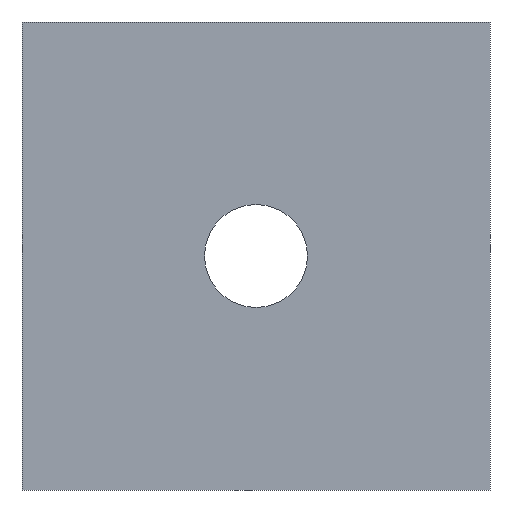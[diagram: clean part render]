
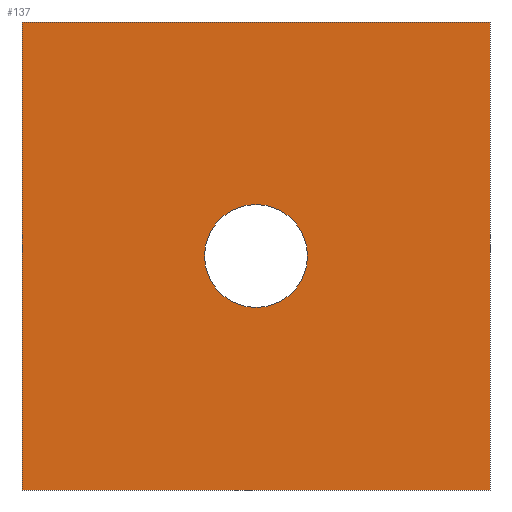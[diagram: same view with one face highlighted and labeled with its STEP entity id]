
A CAD part, front view. The second image highlights one B-rep face of the part: STEP entity #137.
In plain terms, the highlighted planar face has unit normal (0, -1, 0).
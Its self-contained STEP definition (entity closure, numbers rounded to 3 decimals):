
#21 = EDGE_CURVE('',#22,#24,#26,.T.);
#22 = VERTEX_POINT('',#23);
#23 = CARTESIAN_POINT('',(-15.,112.,285.));
#24 = VERTEX_POINT('',#25);
#25 = CARTESIAN_POINT('',(-15.,112.,315.));
#26 = SURFACE_CURVE('',#27,(#31,#43),.PCURVE_S1.);
#27 = LINE('',#28,#29);
#28 = CARTESIAN_POINT('',(-15.,112.,285.));
#29 = VECTOR('',#30,1.);
#30 = DIRECTION('',(0.,0.,1.));
#31 = PCURVE('',#32,#37);
#32 = PLANE('',#33);
#33 = AXIS2_PLACEMENT_3D('',#34,#35,#36);
#34 = CARTESIAN_POINT('',(-15.,112.,285.));
#35 = DIRECTION('',(1.,0.,0.));
#36 = DIRECTION('',(0.,0.,1.));
#37 = DEFINITIONAL_REPRESENTATION('',(#38),#42);
#38 = LINE('',#39,#40);
#39 = CARTESIAN_POINT('',(0.,0.));
#40 = VECTOR('',#41,1.);
#41 = DIRECTION('',(1.,0.));
#42 = ( GEOMETRIC_REPRESENTATION_CONTEXT(2) 
PARAMETRIC_REPRESENTATION_CONTEXT() REPRESENTATION_CONTEXT('2D SPACE',''
  ) );
#43 = PCURVE('',#44,#49);
#44 = PLANE('',#45);
#45 = AXIS2_PLACEMENT_3D('',#46,#47,#48);
#46 = CARTESIAN_POINT('',(-15.,112.,285.));
#47 = DIRECTION('',(0.,1.,0.));
#48 = DIRECTION('',(0.,0.,1.));
#49 = DEFINITIONAL_REPRESENTATION('',(#50),#54);
#50 = LINE('',#51,#52);
#51 = CARTESIAN_POINT('',(0.,0.));
#52 = VECTOR('',#53,1.);
#53 = DIRECTION('',(1.,0.));
#54 = ( GEOMETRIC_REPRESENTATION_CONTEXT(2) 
PARAMETRIC_REPRESENTATION_CONTEXT() REPRESENTATION_CONTEXT('2D SPACE',''
  ) );
#72 = PLANE('',#73);
#73 = AXIS2_PLACEMENT_3D('',#74,#75,#76);
#74 = CARTESIAN_POINT('',(-15.,112.,285.));
#75 = DIRECTION('',(0.,0.,1.));
#76 = DIRECTION('',(1.,0.,0.));
#126 = PLANE('',#127);
#127 = AXIS2_PLACEMENT_3D('',#128,#129,#130);
#128 = CARTESIAN_POINT('',(-15.,112.,315.));
#129 = DIRECTION('',(0.,0.,1.));
#130 = DIRECTION('',(1.,0.,0.));
#137 = ADVANCED_FACE('',(#138,#213),#44,.F.);
#138 = FACE_BOUND('',#139,.F.);
#139 = EDGE_LOOP('',(#140,#163,#164,#187));
#140 = ORIENTED_EDGE('',*,*,#141,.F.);
#141 = EDGE_CURVE('',#22,#142,#144,.T.);
#142 = VERTEX_POINT('',#143);
#143 = CARTESIAN_POINT('',(15.,112.,285.));
#144 = SURFACE_CURVE('',#145,(#149,#156),.PCURVE_S1.);
#145 = LINE('',#146,#147);
#146 = CARTESIAN_POINT('',(-15.,112.,285.));
#147 = VECTOR('',#148,1.);
#148 = DIRECTION('',(1.,0.,0.));
#149 = PCURVE('',#44,#150);
#150 = DEFINITIONAL_REPRESENTATION('',(#151),#155);
#151 = LINE('',#152,#153);
#152 = CARTESIAN_POINT('',(0.,0.));
#153 = VECTOR('',#154,1.);
#154 = DIRECTION('',(0.,1.));
#155 = ( GEOMETRIC_REPRESENTATION_CONTEXT(2) 
PARAMETRIC_REPRESENTATION_CONTEXT() REPRESENTATION_CONTEXT('2D SPACE',''
  ) );
#156 = PCURVE('',#72,#157);
#157 = DEFINITIONAL_REPRESENTATION('',(#158),#162);
#158 = LINE('',#159,#160);
#159 = CARTESIAN_POINT('',(0.,0.));
#160 = VECTOR('',#161,1.);
#161 = DIRECTION('',(1.,0.));
#162 = ( GEOMETRIC_REPRESENTATION_CONTEXT(2) 
PARAMETRIC_REPRESENTATION_CONTEXT() REPRESENTATION_CONTEXT('2D SPACE',''
  ) );
#163 = ORIENTED_EDGE('',*,*,#21,.T.);
#164 = ORIENTED_EDGE('',*,*,#165,.T.);
#165 = EDGE_CURVE('',#24,#166,#168,.T.);
#166 = VERTEX_POINT('',#167);
#167 = CARTESIAN_POINT('',(15.,112.,315.));
#168 = SURFACE_CURVE('',#169,(#173,#180),.PCURVE_S1.);
#169 = LINE('',#170,#171);
#170 = CARTESIAN_POINT('',(-15.,112.,315.));
#171 = VECTOR('',#172,1.);
#172 = DIRECTION('',(1.,0.,0.));
#173 = PCURVE('',#44,#174);
#174 = DEFINITIONAL_REPRESENTATION('',(#175),#179);
#175 = LINE('',#176,#177);
#176 = CARTESIAN_POINT('',(30.,0.));
#177 = VECTOR('',#178,1.);
#178 = DIRECTION('',(0.,1.));
#179 = ( GEOMETRIC_REPRESENTATION_CONTEXT(2) 
PARAMETRIC_REPRESENTATION_CONTEXT() REPRESENTATION_CONTEXT('2D SPACE',''
  ) );
#180 = PCURVE('',#126,#181);
#181 = DEFINITIONAL_REPRESENTATION('',(#182),#186);
#182 = LINE('',#183,#184);
#183 = CARTESIAN_POINT('',(0.,0.));
#184 = VECTOR('',#185,1.);
#185 = DIRECTION('',(1.,0.));
#186 = ( GEOMETRIC_REPRESENTATION_CONTEXT(2) 
PARAMETRIC_REPRESENTATION_CONTEXT() REPRESENTATION_CONTEXT('2D SPACE',''
  ) );
#187 = ORIENTED_EDGE('',*,*,#188,.F.);
#188 = EDGE_CURVE('',#142,#166,#189,.T.);
#189 = SURFACE_CURVE('',#190,(#194,#201),.PCURVE_S1.);
#190 = LINE('',#191,#192);
#191 = CARTESIAN_POINT('',(15.,112.,285.));
#192 = VECTOR('',#193,1.);
#193 = DIRECTION('',(0.,0.,1.));
#194 = PCURVE('',#44,#195);
#195 = DEFINITIONAL_REPRESENTATION('',(#196),#200);
#196 = LINE('',#197,#198);
#197 = CARTESIAN_POINT('',(0.,30.));
#198 = VECTOR('',#199,1.);
#199 = DIRECTION('',(1.,0.));
#200 = ( GEOMETRIC_REPRESENTATION_CONTEXT(2) 
PARAMETRIC_REPRESENTATION_CONTEXT() REPRESENTATION_CONTEXT('2D SPACE',''
  ) );
#201 = PCURVE('',#202,#207);
#202 = PLANE('',#203);
#203 = AXIS2_PLACEMENT_3D('',#204,#205,#206);
#204 = CARTESIAN_POINT('',(15.,112.,285.));
#205 = DIRECTION('',(1.,0.,0.));
#206 = DIRECTION('',(0.,0.,1.));
#207 = DEFINITIONAL_REPRESENTATION('',(#208),#212);
#208 = LINE('',#209,#210);
#209 = CARTESIAN_POINT('',(0.,0.));
#210 = VECTOR('',#211,1.);
#211 = DIRECTION('',(1.,0.));
#212 = ( GEOMETRIC_REPRESENTATION_CONTEXT(2) 
PARAMETRIC_REPRESENTATION_CONTEXT() REPRESENTATION_CONTEXT('2D SPACE',''
  ) );
#213 = FACE_BOUND('',#214,.F.);
#214 = EDGE_LOOP('',(#215));
#215 = ORIENTED_EDGE('',*,*,#216,.T.);
#216 = EDGE_CURVE('',#217,#217,#219,.T.);
#217 = VERTEX_POINT('',#218);
#218 = CARTESIAN_POINT('',(3.3,112.,300.));
#219 = SURFACE_CURVE('',#220,(#225,#236),.PCURVE_S1.);
#220 = CIRCLE('',#221,3.3);
#221 = AXIS2_PLACEMENT_3D('',#222,#223,#224);
#222 = CARTESIAN_POINT('',(0.,112.,300.));
#223 = DIRECTION('',(0.,-1.,0.));
#224 = DIRECTION('',(1.,0.,0.));
#225 = PCURVE('',#44,#226);
#226 = DEFINITIONAL_REPRESENTATION('',(#227),#235);
#227 = ( BOUNDED_CURVE() B_SPLINE_CURVE(2,(#228,#229,#230,#231,#232,#233
,#234),.UNSPECIFIED.,.T.,.F.) B_SPLINE_CURVE_WITH_KNOTS((1,2,2,2,2,1),(
    -2.094,0.,2.094,4.189,6.283,
8.378),.UNSPECIFIED.) CURVE() GEOMETRIC_REPRESENTATION_ITEM() 
RATIONAL_B_SPLINE_CURVE((1.,0.5,1.,0.5,1.,0.5,1.)) REPRESENTATION_ITEM(
  '') );
#228 = CARTESIAN_POINT('',(15.,18.3));
#229 = CARTESIAN_POINT('',(20.716,18.3));
#230 = CARTESIAN_POINT('',(17.858,13.35));
#231 = CARTESIAN_POINT('',(15.,8.4));
#232 = CARTESIAN_POINT('',(12.142,13.35));
#233 = CARTESIAN_POINT('',(9.284,18.3));
#234 = CARTESIAN_POINT('',(15.,18.3));
#235 = ( GEOMETRIC_REPRESENTATION_CONTEXT(2) 
PARAMETRIC_REPRESENTATION_CONTEXT() REPRESENTATION_CONTEXT('2D SPACE',''
  ) );
#236 = PCURVE('',#237,#242);
#237 = CYLINDRICAL_SURFACE('',#238,3.3);
#238 = AXIS2_PLACEMENT_3D('',#239,#240,#241);
#239 = CARTESIAN_POINT('',(0.,111.,300.));
#240 = DIRECTION('',(0.,-1.,0.));
#241 = DIRECTION('',(1.,0.,0.));
#242 = DEFINITIONAL_REPRESENTATION('',(#243),#247);
#243 = LINE('',#244,#245);
#244 = CARTESIAN_POINT('',(0.,-1.));
#245 = VECTOR('',#246,1.);
#246 = DIRECTION('',(1.,0.));
#247 = ( GEOMETRIC_REPRESENTATION_CONTEXT(2) 
PARAMETRIC_REPRESENTATION_CONTEXT() REPRESENTATION_CONTEXT('2D SPACE',''
  ) );
